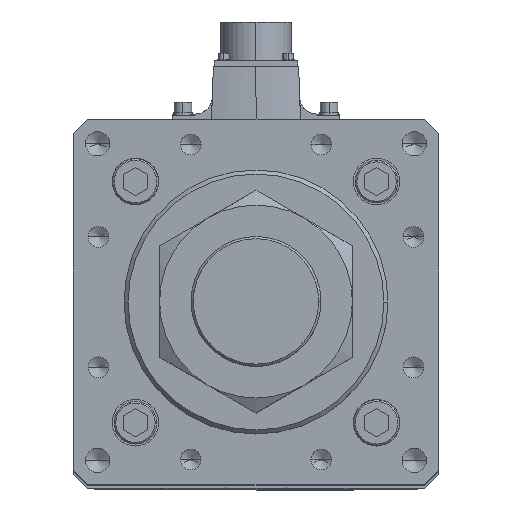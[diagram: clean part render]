
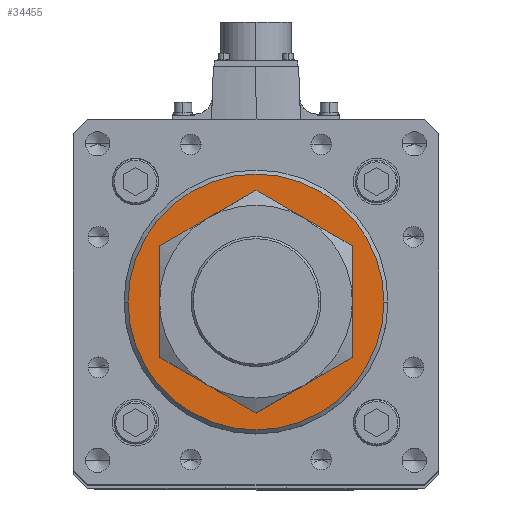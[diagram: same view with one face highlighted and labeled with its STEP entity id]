
A CAD part, top view. The second image highlights one B-rep face of the part: STEP entity #34455.
In plain terms, the highlighted planar face has unit normal (0, 0, 1).
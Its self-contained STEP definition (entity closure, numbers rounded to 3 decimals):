
#1856 = EDGE_LOOP ( 'NONE', ( #50908, #7102 ) ) ;
#2052 = EDGE_CURVE ( 'NONE', #35737, #25725, #53083, .T. ) ;
#2799 = CARTESIAN_POINT ( 'NONE',  ( 0., 0., 1062. ) ) ;
#5283 = CARTESIAN_POINT ( 'NONE',  ( 63., 0., 1062. ) ) ;
#6668 = DIRECTION ( 'NONE',  ( 1., 0., 0. ) ) ;
#7102 = ORIENTED_EDGE ( 'NONE', *, *, #2052, .T. ) ;
#7446 = CARTESIAN_POINT ( 'NONE',  ( 40.5, 0., 1062. ) ) ;
#7749 = DIRECTION ( 'NONE',  ( 1., 0., 0. ) ) ;
#8989 = DIRECTION ( 'NONE',  ( 0., 0., 1. ) ) ;
#10898 = PLANE ( 'NONE',  #34320 ) ;
#13005 = CARTESIAN_POINT ( 'NONE',  ( -63., 0., 1062. ) ) ;
#13309 = DIRECTION ( 'NONE',  ( 1., 0., 0. ) ) ;
#13611 = CARTESIAN_POINT ( 'NONE',  ( -40.5, 0., 1062. ) ) ;
#15208 = FACE_BOUND ( 'NONE', #35229, .T. ) ;
#16560 = DIRECTION ( 'NONE',  ( 0., 0., 1. ) ) ;
#18416 = EDGE_CURVE ( 'NONE', #39400, #23500, #23503, .T. ) ;
#18702 = EDGE_CURVE ( 'NONE', #23500, #39400, #38122, .T. ) ;
#21018 = EDGE_CURVE ( 'NONE', #25725, #35737, #30047, .T. ) ;
#21642 = ORIENTED_EDGE ( 'NONE', *, *, #18702, .T. ) ;
#23500 = VERTEX_POINT ( 'NONE', #7446 ) ;
#23503 = CIRCLE ( 'NONE', #33422, 40.5 ) ;
#23514 = DIRECTION ( 'NONE',  ( 0., 0., -1. ) ) ;
#23608 = DIRECTION ( 'NONE',  ( 0., 0., 1. ) ) ;
#25725 = VERTEX_POINT ( 'NONE', #13005 ) ;
#30047 = CIRCLE ( 'NONE', #41718, 63. ) ;
#31592 = ORIENTED_EDGE ( 'NONE', *, *, #18416, .T. ) ;
#32193 = DIRECTION ( 'NONE',  ( 1., 0., 0. ) ) ;
#33422 = AXIS2_PLACEMENT_3D ( 'NONE', #2799, #54431, #36935 ) ;
#33881 = FACE_OUTER_BOUND ( 'NONE', #1856, .T. ) ;
#34320 = AXIS2_PLACEMENT_3D ( 'NONE', #36642, #23608, #32193 ) ;
#34455 = ADVANCED_FACE ( 'NONE', ( #15208, #33881 ), #10898, .T. ) ;
#34910 = AXIS2_PLACEMENT_3D ( 'NONE', #44559, #23514, #6668 ) ;
#35229 = EDGE_LOOP ( 'NONE', ( #21642, #31592 ) ) ;
#35737 = VERTEX_POINT ( 'NONE', #5283 ) ;
#36642 = CARTESIAN_POINT ( 'NONE',  ( 0., 0., 1062. ) ) ;
#36935 = DIRECTION ( 'NONE',  ( 1., 0., 0. ) ) ;
#38122 = CIRCLE ( 'NONE', #34910, 40.5 ) ;
#39200 = CARTESIAN_POINT ( 'NONE',  ( 0., 0., 1062. ) ) ;
#39400 = VERTEX_POINT ( 'NONE', #13611 ) ;
#41087 = AXIS2_PLACEMENT_3D ( 'NONE', #46731, #16560, #7749 ) ;
#41718 = AXIS2_PLACEMENT_3D ( 'NONE', #39200, #8989, #13309 ) ;
#44559 = CARTESIAN_POINT ( 'NONE',  ( 0., 0., 1062. ) ) ;
#46731 = CARTESIAN_POINT ( 'NONE',  ( 0., 0., 1062. ) ) ;
#50908 = ORIENTED_EDGE ( 'NONE', *, *, #21018, .T. ) ;
#53083 = CIRCLE ( 'NONE', #41087, 63. ) ;
#54431 = DIRECTION ( 'NONE',  ( 0., 0., -1. ) ) ;
